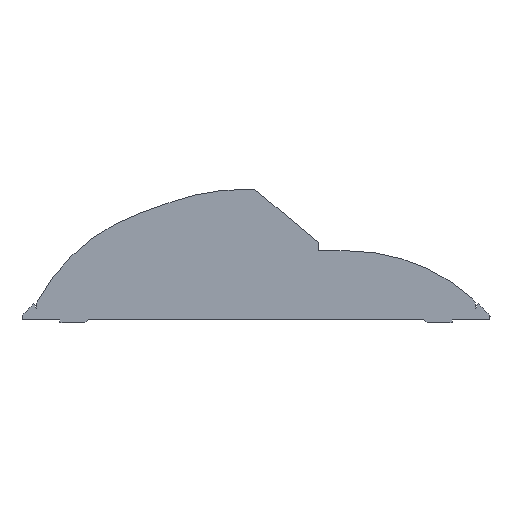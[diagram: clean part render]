
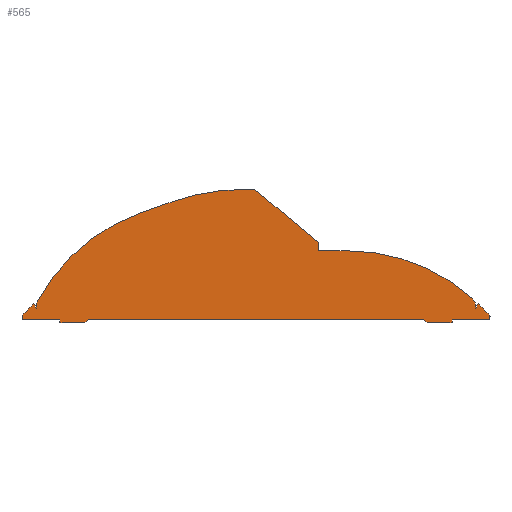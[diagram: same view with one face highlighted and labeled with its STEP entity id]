
A CAD part, left-side view. The second image highlights one B-rep face of the part: STEP entity #565.
In plain terms, the highlighted planar face has unit normal (-1, 0, 0).
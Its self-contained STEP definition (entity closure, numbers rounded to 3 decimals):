
#21=CIRCLE('',#591,162.1);
#23=CIRCLE('',#595,136.54);
#24=CIRCLE('',#598,7.3);
#26=CIRCLE('',#606,136.5);
#29=CIRCLE('',#612,7.3);
#30=CIRCLE('',#614,136.5);
#33=CIRCLE('',#618,136.5);
#34=CIRCLE('',#620,6.);
#39=CIRCLE('',#627,2.);
#40=CIRCLE('',#628,6.);
#41=CIRCLE('',#629,2.);
#160=ORIENTED_EDGE('',*,*,#235,.F.);
#161=ORIENTED_EDGE('',*,*,#218,.T.);
#162=ORIENTED_EDGE('',*,*,#221,.T.);
#163=ORIENTED_EDGE('',*,*,#224,.T.);
#164=ORIENTED_EDGE('',*,*,#227,.T.);
#165=ORIENTED_EDGE('',*,*,#230,.T.);
#166=ORIENTED_EDGE('',*,*,#233,.T.);
#167=ORIENTED_EDGE('',*,*,#237,.F.);
#168=ORIENTED_EDGE('',*,*,#242,.F.);
#169=ORIENTED_EDGE('',*,*,#245,.F.);
#170=ORIENTED_EDGE('',*,*,#273,.F.);
#171=ORIENTED_EDGE('',*,*,#284,.T.);
#172=ORIENTED_EDGE('',*,*,#285,.F.);
#173=ORIENTED_EDGE('',*,*,#286,.T.);
#174=ORIENTED_EDGE('',*,*,#287,.T.);
#175=ORIENTED_EDGE('',*,*,#288,.T.);
#176=ORIENTED_EDGE('',*,*,#289,.F.);
#177=ORIENTED_EDGE('',*,*,#274,.F.);
#178=ORIENTED_EDGE('',*,*,#247,.F.);
#179=ORIENTED_EDGE('',*,*,#251,.F.);
#180=ORIENTED_EDGE('',*,*,#255,.F.);
#181=ORIENTED_EDGE('',*,*,#290,.T.);
#182=ORIENTED_EDGE('',*,*,#256,.F.);
#183=ORIENTED_EDGE('',*,*,#262,.F.);
#184=ORIENTED_EDGE('',*,*,#265,.F.);
#185=ORIENTED_EDGE('',*,*,#268,.F.);
#186=ORIENTED_EDGE('',*,*,#269,.F.);
#218=EDGE_CURVE('',#297,#299,#353,.T.);
#221=EDGE_CURVE('',#299,#301,#356,.T.);
#224=EDGE_CURVE('',#301,#303,#359,.T.);
#227=EDGE_CURVE('',#303,#305,#21,.T.);
#230=EDGE_CURVE('',#305,#307,#363,.T.);
#233=EDGE_CURVE('',#307,#309,#23,.T.);
#235=EDGE_CURVE('',#297,#311,#366,.T.);
#237=EDGE_CURVE('',#312,#309,#24,.T.);
#242=EDGE_CURVE('',#315,#312,#371,.T.);
#245=EDGE_CURVE('',#317,#315,#374,.T.);
#247=EDGE_CURVE('',#318,#320,#376,.T.);
#251=EDGE_CURVE('',#322,#318,#380,.T.);
#255=EDGE_CURVE('',#325,#322,#384,.T.);
#256=EDGE_CURVE('',#326,#327,#26,.T.);
#262=EDGE_CURVE('',#331,#326,#389,.T.);
#265=EDGE_CURVE('',#333,#331,#392,.T.);
#268=EDGE_CURVE('',#335,#333,#29,.T.);
#269=EDGE_CURVE('',#311,#335,#30,.T.);
#273=EDGE_CURVE('',#337,#317,#33,.T.);
#274=EDGE_CURVE('',#320,#338,#34,.F.);
#284=EDGE_CURVE('',#337,#345,#39,.F.);
#285=EDGE_CURVE('',#346,#345,#400,.T.);
#286=EDGE_CURVE('',#346,#347,#401,.T.);
#287=EDGE_CURVE('',#347,#348,#402,.T.);
#288=EDGE_CURVE('',#348,#349,#40,.F.);
#289=EDGE_CURVE('',#338,#349,#403,.T.);
#290=EDGE_CURVE('',#325,#327,#41,.F.);
#297=VERTEX_POINT('',#804);
#299=VERTEX_POINT('',#808);
#301=VERTEX_POINT('',#814);
#303=VERTEX_POINT('',#820);
#305=VERTEX_POINT('',#826);
#307=VERTEX_POINT('',#832);
#309=VERTEX_POINT('',#838);
#311=VERTEX_POINT('',#844);
#312=VERTEX_POINT('',#848);
#315=VERTEX_POINT('',#856);
#317=VERTEX_POINT('',#862);
#318=VERTEX_POINT('',#866);
#320=VERTEX_POINT('',#869);
#322=VERTEX_POINT('',#875);
#325=VERTEX_POINT('',#883);
#326=VERTEX_POINT('',#887);
#327=VERTEX_POINT('',#888);
#331=VERTEX_POINT('',#898);
#333=VERTEX_POINT('',#904);
#335=VERTEX_POINT('',#910);
#337=VERTEX_POINT('',#919);
#338=VERTEX_POINT('',#923);
#345=VERTEX_POINT('',#942);
#346=VERTEX_POINT('',#944);
#347=VERTEX_POINT('',#946);
#348=VERTEX_POINT('',#948);
#349=VERTEX_POINT('',#950);
#353=LINE('',#809,#412);
#356=LINE('',#815,#415);
#359=LINE('',#821,#418);
#363=LINE('',#833,#422);
#366=LINE('',#843,#425);
#371=LINE('',#857,#430);
#374=LINE('',#863,#433);
#376=LINE('',#868,#435);
#380=LINE('',#877,#439);
#384=LINE('',#884,#443);
#389=LINE('',#899,#448);
#392=LINE('',#905,#451);
#400=LINE('',#943,#459);
#401=LINE('',#945,#460);
#402=LINE('',#947,#461);
#403=LINE('',#951,#462);
#412=VECTOR('',#644,1000.);
#415=VECTOR('',#649,1000.);
#418=VECTOR('',#654,1000.);
#422=VECTOR('',#666,1000.);
#425=VECTOR('',#677,1000.);
#430=VECTOR('',#690,1000.);
#433=VECTOR('',#695,1000.);
#435=VECTOR('',#699,1000.);
#439=VECTOR('',#705,1000.);
#443=VECTOR('',#711,1000.);
#448=VECTOR('',#724,1000.);
#451=VECTOR('',#729,1000.);
#459=VECTOR('',#773,1000.);
#460=VECTOR('',#774,1000.);
#461=VECTOR('',#775,1000.);
#462=VECTOR('',#778,1000.);
#489=EDGE_LOOP('',(#160,#161,#162,#163,#164,#165,#166,#167,#168,#169,#170,
#171,#172,#173,#174,#175,#176,#177,#178,#179,#180,#181,#182,#183,#184,#185,
#186));
#518=FACE_BOUND('',#489,.T.);
#539=PLANE('',#626);
#565=ADVANCED_FACE('',(#518),#539,.F.);
#591=AXIS2_PLACEMENT_3D('',#827,#660,#661);
#595=AXIS2_PLACEMENT_3D('',#839,#672,#673);
#598=AXIS2_PLACEMENT_3D('',#847,#681,#682);
#606=AXIS2_PLACEMENT_3D('',#886,#714,#715);
#612=AXIS2_PLACEMENT_3D('',#911,#735,#736);
#614=AXIS2_PLACEMENT_3D('',#913,#739,#740);
#618=AXIS2_PLACEMENT_3D('',#920,#748,#749);
#620=AXIS2_PLACEMENT_3D('',#922,#752,#753);
#626=AXIS2_PLACEMENT_3D('',#940,#769,#770);
#627=AXIS2_PLACEMENT_3D('',#941,#771,#772);
#628=AXIS2_PLACEMENT_3D('',#949,#776,#777);
#629=AXIS2_PLACEMENT_3D('',#952,#779,#780);
#644=DIRECTION('',(0.,0.,1.));
#649=DIRECTION('',(0.,0.766,0.643));
#654=DIRECTION('',(0.,1.,0.));
#660=DIRECTION('',(-1.,0.,0.));
#661=DIRECTION('',(0.,1.,0.));
#666=DIRECTION('',(0.,0.942,-0.336));
#672=DIRECTION('',(-1.,0.,0.));
#673=DIRECTION('',(0.,1.,0.));
#677=DIRECTION('',(0.,-1.,0.));
#681=DIRECTION('',(1.,0.,0.));
#682=DIRECTION('',(0.,1.,0.));
#690=DIRECTION('',(0.,-0.087,0.996));
#695=DIRECTION('',(0.,-0.5,-0.866));
#699=DIRECTION('',(0.,1.,0.));
#705=DIRECTION('',(0.,0.,-1.));
#711=DIRECTION('',(0.,1.,0.));
#714=DIRECTION('',(1.,0.,0.));
#715=DIRECTION('',(0.,1.,0.));
#724=DIRECTION('',(0.,-0.5,0.866));
#729=DIRECTION('',(0.,-0.087,-0.996));
#735=DIRECTION('',(1.,0.,0.));
#736=DIRECTION('',(0.,1.,0.));
#739=DIRECTION('',(1.,0.,0.));
#740=DIRECTION('',(0.,1.,0.));
#748=DIRECTION('',(1.,0.,0.));
#749=DIRECTION('',(0.,1.,0.));
#752=DIRECTION('',(-1.,0.,0.));
#753=DIRECTION('',(0.,-1.,0.));
#769=DIRECTION('',(1.,0.,0.));
#770=DIRECTION('',(0.,1.,0.));
#771=DIRECTION('',(1.,0.,0.));
#772=DIRECTION('',(0.,1.,0.));
#773=DIRECTION('',(0.,1.,0.));
#774=DIRECTION('',(0.,0.,-1.));
#775=DIRECTION('',(0.,-1.,0.));
#776=DIRECTION('',(1.,0.,0.));
#777=DIRECTION('',(0.,1.,0.));
#778=DIRECTION('',(0.,1.,0.));
#779=DIRECTION('',(1.,0.,0.));
#780=DIRECTION('',(0.,1.,0.));
#804=CARTESIAN_POINT('',(-629.,-45.06,50.));
#808=CARTESIAN_POINT('',(-629.,-45.06,55.96));
#809=CARTESIAN_POINT('',(-629.,-45.06,50.));
#814=CARTESIAN_POINT('',(-629.,0.823,94.46));
#815=CARTESIAN_POINT('',(-629.,-45.06,55.96));
#820=CARTESIAN_POINT('',(-629.,7.7,94.46));
#821=CARTESIAN_POINT('',(-629.,0.823,94.46));
#826=CARTESIAN_POINT('',(-629.,62.2,85.024));
#827=CARTESIAN_POINT('',(-629.,7.7,-67.64));
#832=CARTESIAN_POINT('',(-629.,83.716,77.343));
#833=CARTESIAN_POINT('',(-629.,62.2,85.024));
#838=CARTESIAN_POINT('',(-629.,157.757,13.988));
#839=CARTESIAN_POINT('',(-629.,37.81,-51.249));
#843=CARTESIAN_POINT('',(-629.,66.,50.));
#844=CARTESIAN_POINT('',(-629.,-66.,50.));
#847=CARTESIAN_POINT('',(-629.,151.344,10.5));
#848=CARTESIAN_POINT('',(-629.,158.616,11.136));
#856=CARTESIAN_POINT('',(-629.,158.852,8.447));
#857=CARTESIAN_POINT('',(-629.,158.616,11.136));
#862=CARTESIAN_POINT('',(-629.,160.759,11.75));
#863=CARTESIAN_POINT('',(-629.,158.852,8.447));
#866=CARTESIAN_POINT('',(-629.,-141.8,-2.));
#868=CARTESIAN_POINT('',(-629.,-141.8,-2.));
#869=CARTESIAN_POINT('',(-629.,-125.7,-2.));
#875=CARTESIAN_POINT('',(-629.,-141.8,0.));
#877=CARTESIAN_POINT('',(-629.,-141.8,0.));
#883=CARTESIAN_POINT('',(-629.,-167.282,0.));
#884=CARTESIAN_POINT('',(-629.,-171.594,0.));
#886=CARTESIAN_POINT('',(-629.,-66.,-86.5));
#887=CARTESIAN_POINT('',(-629.,-160.759,11.75));
#888=CARTESIAN_POINT('',(-629.,-168.788,3.316));
#898=CARTESIAN_POINT('',(-629.,-158.852,8.447));
#899=CARTESIAN_POINT('',(-629.,-158.852,8.447));
#904=CARTESIAN_POINT('',(-629.,-158.616,11.136));
#905=CARTESIAN_POINT('',(-629.,-158.616,11.136));
#910=CARTESIAN_POINT('',(-629.,-156.166,15.981));
#911=CARTESIAN_POINT('',(-629.,-151.344,10.5));
#913=CARTESIAN_POINT('',(-629.,-66.,-86.5));
#919=CARTESIAN_POINT('',(-629.,168.788,3.316));
#920=CARTESIAN_POINT('',(-629.,66.,-86.5));
#922=CARTESIAN_POINT('',(-629.,-125.7,4.));
#923=CARTESIAN_POINT('',(-629.,-121.228,0.));
#940=CARTESIAN_POINT('',(-629.,66.,-86.5));
#941=CARTESIAN_POINT('',(-629.,167.282,2.));
#942=CARTESIAN_POINT('',(-629.,167.282,0.));
#943=CARTESIAN_POINT('',(-629.,-171.594,0.));
#944=CARTESIAN_POINT('',(-629.,141.8,0.));
#945=CARTESIAN_POINT('',(-629.,141.8,0.));
#946=CARTESIAN_POINT('',(-629.,141.8,-2.));
#947=CARTESIAN_POINT('',(-629.,141.8,-2.));
#948=CARTESIAN_POINT('',(-629.,125.7,-2.));
#949=CARTESIAN_POINT('',(-629.,125.7,4.));
#950=CARTESIAN_POINT('',(-629.,121.228,0.));
#951=CARTESIAN_POINT('',(-629.,-171.594,0.));
#952=CARTESIAN_POINT('',(-629.,-167.282,2.));
